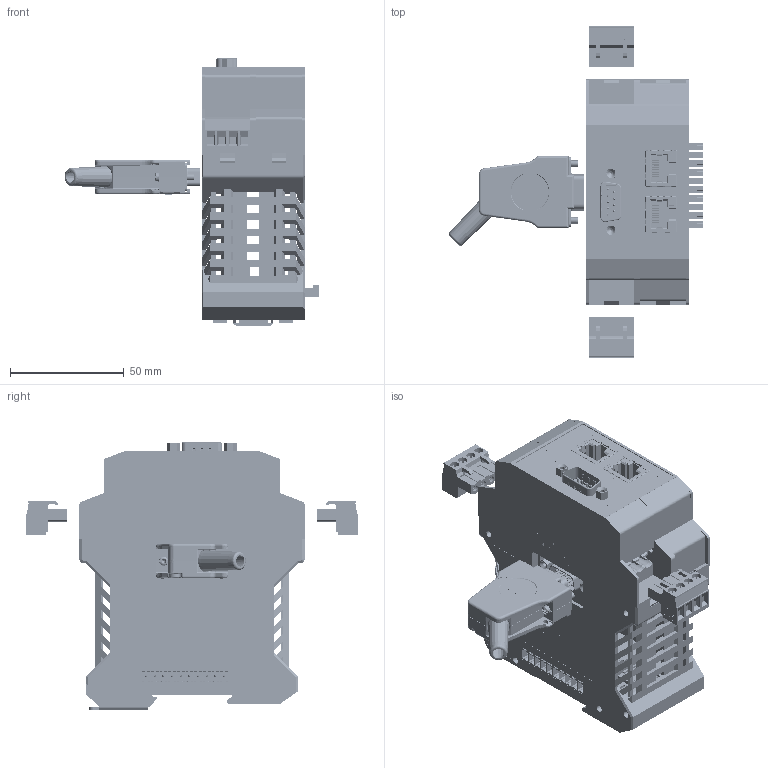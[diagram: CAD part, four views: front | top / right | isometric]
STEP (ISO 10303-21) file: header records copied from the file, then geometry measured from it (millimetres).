
FILE_DESCRIPTION(('STEP AP203'), '1');
FILE_NAME('鍛鍧 BCE-5-3_', '', ('UNSPECIFIED'), ('UNSPECIFIED'), 'ASCON STEP Converter 1.3', 'ASCON Math Kernel', '');
FILE_SCHEMA(('CONFIG_CONTROL_DESIGN'));
Length unit declared in the file: millimetre
Products named in the file (49): ч蜱齁罻; ME_B-22.5_MSTBO_H.Select__00296524; MSTBO_2_5_4-G1L_H.Select__00364411; MSTBO_2_5_4-G1R_H.Select__00364505; 71069939_1; 71069939_2; 71069939_3; 71069939_4; 71069939_5; 71069939_6; 71069939_7; 71069939_8; 71069939_9; 71069939_10; 71069939_11; 71069939_12; 71069939_13; 71069939_14; 71069939_15; 71069939_16; 71069939_17; 1; 2; 3; 4; 5; 6; 7; ME_45 2853682; ME_BUS_22_5_MC_10-ST_H.Select__00493208; ME_Verriegelungshaken_H.Select__00446697.1.1.1; ME_45_UTM_H.Select__00294716; ME_22.5_UTR_H_BUS_10_H.Select__00496319; ME_22.5_UTL_H_BUS_10_H.Select__00496310; Fussriegel_17.5_L30_H.Select__00315466; SD9P; MSTBT_2.5-4-ST; 1419723; SD9S
Assembly tree (60 placements, depth 5):
  (unnamed)
    (unnamed)
      (unnamed)
        ч蜱齁罻  x6
          ME_B-22.5_MSTBO_H.Select__00296524
        MSTBO_2_5_4-G1L_H.Select__00364411
        MSTBO_2_5_4-G1R_H.Select__00364505
        (unnamed)
          71069939_1
          71069939_2
          71069939_3
          71069939_4
          71069939_5
          71069939_6
          71069939_7
          71069939_8
          71069939_9
          71069939_10
          71069939_11
          71069939_12
          71069939_13
          71069939_14
          71069939_15
          71069939_16
          71069939_17  x2
        (unnamed)  x2
          1
          2
          3
          4
          5
          6
          7
      (unnamed)
        ME_45 2853682
          ME_BUS_22_5_MC_10-ST_H.Select__00493208  x2
          ME_Verriegelungshaken_H.Select__00446697.1.1.1  x4
          ME_45_UTM_H.Select__00294716
          ME_22.5_UTR_H_BUS_10_H.Select__00496319
          ME_22.5_UTL_H_BUS_10_H.Select__00496310
          Fussriegel_17.5_L30_H.Select__00315466
        SD9P
        71069939_17
        71069939_17
    MSTBT_2.5-4-ST  x2
      MSTBT_2.5-4-ST
    (unnamed)
      1419723
      SD9S
Bounding box: 112 x 145.9 x 117.4 mm (x, y, z)
Volume: 116640.7 mm3; surface area: 166507.1 mm2
Topology: 60 solids, 62 shells, 21030 faces, 59066 edges, 38907 vertices
Faces by surface type: plane 12697, cylinder 7728, bspline 216, cone 138, torus 109, extrusion 74, sphere 68
Full cylindrical faces by diameter (mm): 0.434 x1, 0.813 x3, 0.853 x3, 0.991 x18, 1 x18, 1.016 x18, 1.353 x8, 1.4 x16, 1.524 x18, 1.6 x40, 2 x12, 2.013 x6, 2.1 x3, 2.5 x4, 2.77 x2, 2.8 x20, 2.845 x2, 3 x12, 3.048 x2, 3.783 x8, 3.8 x8, 4 x8, 5 x4
Entity records: 769386 total; most frequent: CARTESIAN_POINT 126864, ORIENTED_EDGE 104280, DIRECTION 102272, EDGE_CURVE 52144, VECTOR 36190, LINE 36153, VERTEX_POINT 34611, AXIS2_PLACEMENT_3D 33041
